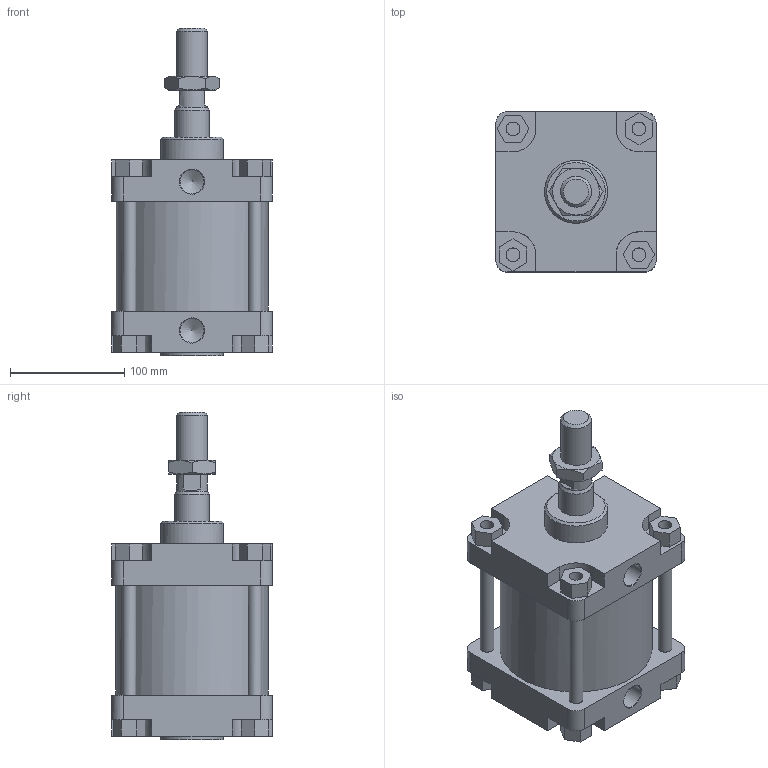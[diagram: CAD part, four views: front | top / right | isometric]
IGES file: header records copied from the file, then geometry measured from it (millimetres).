
Global section: file name: 1305_125_0000_01A; native system: Autodesk Inventor 2014; preprocessor: unknown; author: A. Manieri; date: 20161124.143136; units: millimetre
Bounding box: 140 x 140 x 286 mm (x, y, z)
Volume: 2787920.4 mm3; surface area: 321728.8 mm2
Topology: 9 solids, 9 shells, 175 faces, 440 edges, 295 vertices
Faces by surface type: bspline 175
